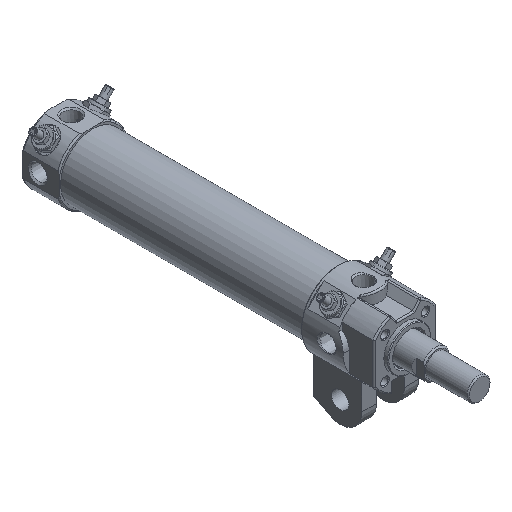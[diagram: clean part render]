
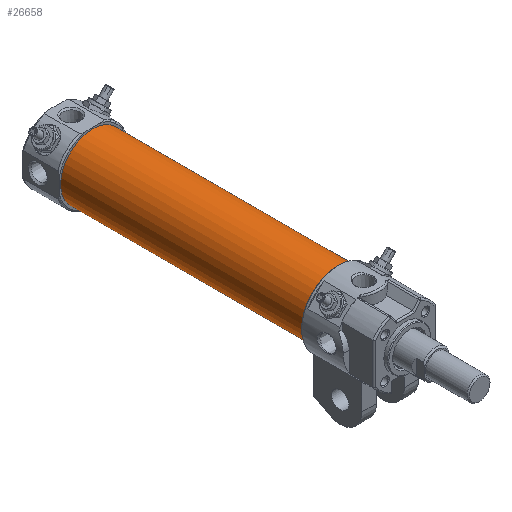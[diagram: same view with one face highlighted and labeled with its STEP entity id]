
A CAD part, isometric view. The second image highlights one B-rep face of the part: STEP entity #26658.
In plain terms, the highlighted cylindrical face has radius 22.5 mm (diameter 45 mm), a full revolution.
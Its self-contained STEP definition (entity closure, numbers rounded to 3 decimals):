
#21584=CARTESIAN_POINT('',(22.5,221.5,0.));
#21585=VERTEX_POINT('',#21584);
#21586=CARTESIAN_POINT('',(0.0,221.5,0.0));
#21587=DIRECTION('',(0.0,-1.0,0.0));
#21588=DIRECTION('',(-1.0,0.0,0.0));
#21589=AXIS2_PLACEMENT_3D('',#21586,#21587,#21588);
#21590=CIRCLE('',#21589,22.5);
#21591=EDGE_CURVE('',#21585,#21585,#21590,.T.);
#26635=CARTESIAN_POINT('',(22.5,50.5,0.));
#26636=VERTEX_POINT('',#26635);
#26637=CARTESIAN_POINT('',(0.0,50.5,0.0));
#26638=DIRECTION('',(0.0,-1.0,0.0));
#26639=DIRECTION('',(-1.0,0.0,0.0));
#26640=AXIS2_PLACEMENT_3D('',#26637,#26638,#26639);
#26641=CIRCLE('',#26640,22.5);
#26642=EDGE_CURVE('',#26636,#26636,#26641,.T.);
#26647=CARTESIAN_POINT('',(0.0,50.5,0.0));
#26648=DIRECTION('',(0.0,1.0,0.0));
#26649=DIRECTION('',(-1.0,0.0,0.0));
#26650=AXIS2_PLACEMENT_3D('',#26647,#26648,#26649);
#26651=CYLINDRICAL_SURFACE('',#26650,22.5);
#26652=ORIENTED_EDGE('',*,*,#21591,.T.);
#26653=EDGE_LOOP('',(#26652));
#26654=FACE_OUTER_BOUND('',#26653,.T.);
#26655=ORIENTED_EDGE('',*,*,#26642,.F.);
#26656=EDGE_LOOP('',(#26655));
#26657=FACE_BOUND('',#26656,.T.);
#26658=ADVANCED_FACE('',(#26654,#26657),#26651,.T.);
